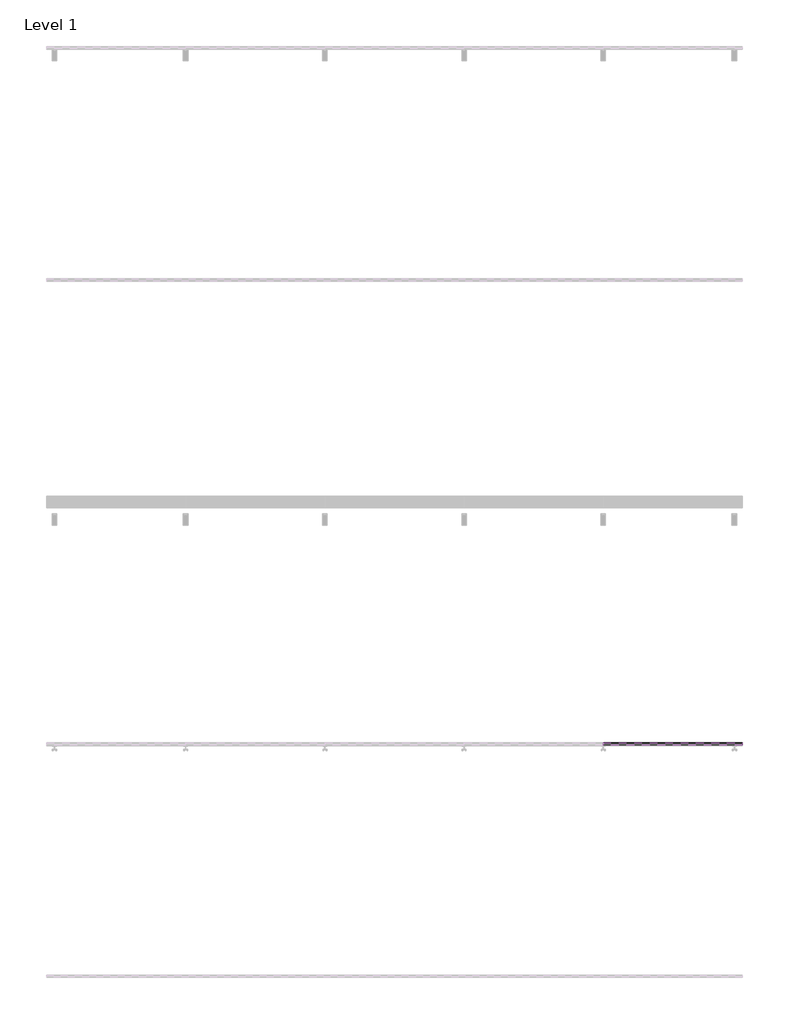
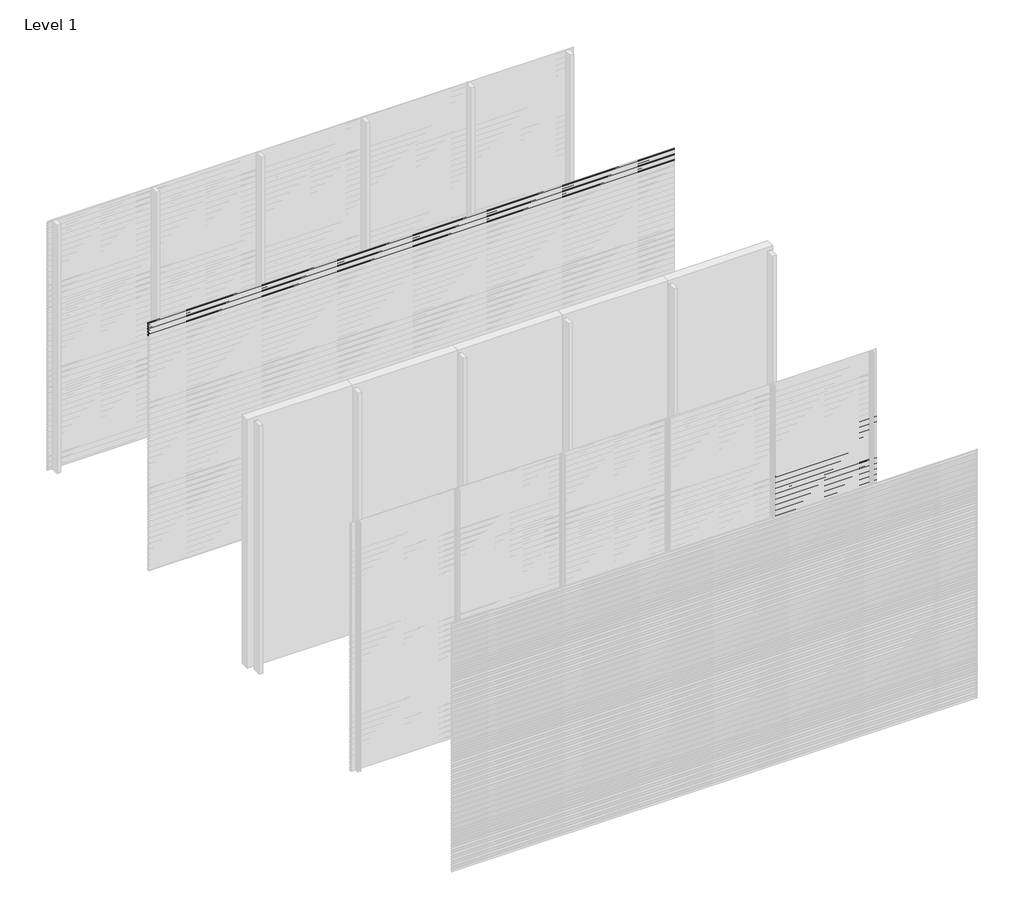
# One storey, part 25 of 77: 72 proxies.
"""IFC4 building model written with IfcOpenShell, lengths in millimetres."""

import ifcopenshell
import ifcopenshell.guid

model = None  # the IFC model being written
_history = None  # IfcOwnerHistory: only IFC2X3 demands one
_inside = {}  # id of a spatial element -> (the spatial element, [elements in it])
_under = {}  # id of a project, library or spatial element -> (it, [spatial elements below it])
_declared = {}  # id of a project -> (the project, [libraries it declares])
_typed = {}  # id of a type object -> (the type object, [elements of that type])
_made_of = {}  # id of a material, layer set ... -> (it, [elements and type objects made of it])


def new_model(schema):
    """Start an empty IFC model of exactly this schema.

    Asked for "IFC4X3", IfcOpenShell would pick the latest addendum, in which some entities
    have other attributes; the version numbers below select the first issue.
    IFC2X3 requires an IfcOwnerHistory on every rooted entity: one is made here for all.
    """
    global model, _history
    if schema == "IFC4X3":
        model = ifcopenshell.file(schema_version=(4, 3, 0, 0))
    else:
        model = ifcopenshell.file(schema=schema)
    _inside.clear()
    _under.clear()
    _declared.clear()
    _typed.clear()
    _made_of.clear()
    _history = None
    if model.schema == "IFC2X3":
        org = make("IfcOrganization", Name="unknown")
        user = make(
            "IfcPersonAndOrganization",
            ThePerson=make("IfcPerson", FamilyName="unknown"),
            TheOrganization=org,
        )
        app = make(
            "IfcApplication",
            ApplicationDeveloper=org,
            Version="unknown",
            ApplicationFullName="unknown",
            ApplicationIdentifier="unknown",
        )
        _history = make(
            "IfcOwnerHistory",
            OwningUser=user,
            OwningApplication=app,
            ChangeAction="ADDED",
            CreationDate=0,
        )
    return model


def make(cls, **values):
    """One entity of the class cls with the attributes given. An attribute that is None is left unset."""
    return model.create_entity(
        cls, **{name: value for name, value in values.items() if value is not None}
    )


def rooted(cls, **values):
    """An entity with a GlobalId (a new one), such as an element, a storey or a relation."""
    return make(cls, GlobalId=ifcopenshell.guid.new(), OwnerHistory=_history, **values)


def si_unit(unit_type, name, prefix=None):
    """IfcSIUnit, for example si_unit("LENGTHUNIT", "METRE", prefix="MILLI")."""
    return make("IfcSIUnit", UnitType=unit_type, Prefix=prefix, Name=name)


def assignment(units):
    """IfcUnitAssignment: the units of a project."""
    return None if units is None else make("IfcUnitAssignment", Units=units)


def point(xyz):
    """IfcCartesianPoint."""
    return None if xyz is None else make("IfcCartesianPoint", Coordinates=xyz)


def direction(xyz):
    """IfcDirection."""
    return None if xyz is None else make("IfcDirection", DirectionRatios=xyz)


def frame(location, z_axis=None, x_axis=None):
    """IfcAxis2Placement3D, a coordinate frame: its origin and axes. An axis left out is left unset."""
    return make(
        "IfcAxis2Placement3D",
        Location=point(location),
        Axis=direction(z_axis),
        RefDirection=direction(x_axis),
    )


def origin():
    """The frame at (0, 0, 0) with its axes left unset."""
    return frame((0.0, 0.0, 0.0))


def place(relative_to, where):
    """IfcLocalPlacement: puts the frame where relative to a parent placement (None: the world)."""
    return make(
        "IfcLocalPlacement", PlacementRelTo=relative_to, RelativePlacement=where
    )


def context(
    kind, dimensions, precision=None, world=None, true_north=None, identifier=None
):
    """IfcGeometricRepresentationContext, for example the 3D "Model" context."""
    return make(
        "IfcGeometricRepresentationContext",
        ContextIdentifier=identifier,
        ContextType=kind,
        CoordinateSpaceDimension=dimensions,
        Precision=precision,
        WorldCoordinateSystem=world,
        TrueNorth=true_north,
    )


def project(units=None, contexts=None):
    """IfcProject with its units and contexts."""
    return rooted(
        "IfcProject",
        Name="project",
        RepresentationContexts=contexts,
        UnitsInContext=assignment(units),
    )


def spatial(cls, under=None, at=None, **own):
    """A site, building, storey or space (cls), placed at a placement, below another one or the project."""
    s = rooted(cls, ObjectPlacement=at, **own)
    if under is not None:
        _under.setdefault(under.id(), (under, []))[1].append(s)
    return s


def polyline(points):
    """IfcPolyline through the points."""
    return make("IfcPolyline", Points=[point(p) for p in points])


def outline(outer, holes=None, kind="AREA"):
    """IfcArbitraryClosedProfileDef: a profile drawn as a closed curve; with holes, ...WithVoids."""
    if holes is None:
        return make("IfcArbitraryClosedProfileDef", ProfileType=kind, OuterCurve=outer)
    return make(
        "IfcArbitraryProfileDefWithVoids",
        ProfileType=kind,
        OuterCurve=outer,
        InnerCurves=holes,
    )


def extrude(swept, where, along, depth):
    """IfcExtrudedAreaSolid: the profile swept, set in the frame where, extruded along a direction by depth."""
    return make(
        "IfcExtrudedAreaSolid",
        SweptArea=swept,
        Position=where,
        ExtrudedDirection=direction(along),
        Depth=depth,
    )


def shape(context_of_items, identifier, shape_type, items):
    """IfcShapeRepresentation: the items that make up one representation, for example the "Body"."""
    return make(
        "IfcShapeRepresentation",
        ContextOfItems=context_of_items,
        RepresentationIdentifier=identifier,
        RepresentationType=shape_type,
        Items=items,
    )


def made_of(thing, what):
    """Note that an element or type object is made of a material, layer set ...; save() writes the relation."""
    if what is not None:
        _made_of.setdefault(what.id(), (what, []))[1].append(thing)
    return thing


def element(
    cls,
    number,
    at=None,
    inside=None,
    cuts=None,
    type_object=None,
    material=None,
    context=None,
    identifier="Body",
    shape_type=None,
    held_by="IfcProductDefinitionShape",
    body=None,
    shapes=None,
    **own,
):
    """One element of the class cls, such as IfcWall. Its Tag is "e" and its number.

    at: its placement. inside: the storey or other place that contains it. cuts: it is an
    opening in that element (IfcRelVoidsElement). A single representation is given by context,
    identifier, shape_type and body (its items); several are given by shapes. held_by: the class
    of the entity that holds the representations. save() writes the other relations.
    """
    e = rooted(cls, Tag="e%d" % number, ObjectPlacement=at, **own)
    if body is not None:
        shapes = [shape(context, identifier, shape_type, body)]
    if shapes is not None:
        e.Representation = make(held_by, Representations=shapes)
    if inside is not None:
        _inside.setdefault(inside.id(), (inside, []))[1].append(e)
    if cuts is not None:
        rooted(
            "IfcRelVoidsElement", RelatingBuildingElement=cuts, RelatedOpeningElement=e
        )
    if type_object is not None:
        _typed.setdefault(type_object.id(), (type_object, []))[1].append(e)
    return made_of(e, material)


def aggregate(whole, parts):
    """IfcRelAggregates: a whole, such as a stair, and the parts it consists of."""
    return rooted("IfcRelAggregates", RelatingObject=whole, RelatedObjects=parts)


def save(model, path):
    """Write the relations noted so far, then the file.

    IfcRelAggregates (storeys below a building ...), IfcRelContainedInSpatialStructure (elements
    in a storey), IfcRelDefinesByType, IfcRelAssociatesMaterial and IfcRelDeclares: one each for
    every whole, place, type object, material and project.
    """
    for whole, parts in _under.values():
        aggregate(whole, parts)
    for where, things in _inside.values():
        rooted(
            "IfcRelContainedInSpatialStructure",
            RelatedElements=things,
            RelatingStructure=where,
        )
    for kind, things in _typed.values():
        rooted("IfcRelDefinesByType", RelatedObjects=things, RelatingType=kind)
    for what, things in _made_of.values():
        rooted("IfcRelAssociatesMaterial", RelatedObjects=things, RelatingMaterial=what)
    for by, libraries in _declared.values():
        rooted("IfcRelDeclares", RelatingContext=by, RelatedDefinitions=libraries)
    model.write(path)


model = new_model("IFC4")

# Units and contexts
model_context = context("Model", 3, world=origin())
ifc_project = project(units=[si_unit("LENGTHUNIT", "METRE", prefix="MILLI")], contexts=[model_context])

# Site, building, storey
site = spatial("IfcSite", under=ifc_project)
building = spatial("IfcBuilding", under=site)
storey = spatial("IfcBuildingStorey", under=building, Name="Level 1", Elevation=0.0)

# Proxies
placement = place(None, origin())
element("IfcBuildingElementProxy", 1, Name="Wall Sweeps", at=placement, inside=storey, context=model_context, shape_type="SweptSolid", body=[
    extrude(outline(polyline([(-37978.6, 2972.5359887), (-37998.0, 2983.7366691), (-37998.0, 2997.0), (-37997.0, 2997.0), (-37997.0, 2984.3191057), (-37977.6, 2973.1185105), (-37977.6, 2959.5185105), (-37978.6, 2961.0953129), (-37978.6, 2966.9032062), (-37995.9773817, 2958.8), (-37996.4, 2959.7063078), (-37978.6, 2968.0065841), (-37978.6, 2972.5359887)])), frame((0.0, 0.0, 0.0), z_axis=(1.0, 0.0, 0.0), x_axis=(0.0, 1.0, 0.0)), (0.0, 0.0, 1.0), 6000.0),
])
element("IfcBuildingElementProxy", 2, Name="Wall Sweeps", at=placement, inside=storey, context=model_context, shape_type="SweptSolid", body=[
    extrude(outline(polyline([(-37978.6, 2939.2359887), (-37998.0, 2950.4366691), (-37998.0, 2963.7), (-37997.0, 2963.7), (-37997.0, 2951.0191057), (-37977.6, 2939.8185105), (-37977.6, 2926.2185105), (-37978.6, 2927.7953129), (-37978.6, 2933.6032062), (-37995.9773817, 2925.5), (-37996.4, 2926.4063078), (-37978.6, 2934.7065841), (-37978.6, 2939.2359887)])), frame((0.0, 0.0, 0.0), z_axis=(1.0, 0.0, 0.0), x_axis=(0.0, 1.0, 0.0)), (0.0, 0.0, 1.0), 6000.0),
])
element("IfcBuildingElementProxy", 3, Name="Wall Sweeps", at=placement, inside=storey, context=model_context, shape_type="SweptSolid", body=[
    extrude(outline(polyline([(-37978.6, 2905.9359887), (-37998.0, 2917.1366691), (-37998.0, 2930.4), (-37997.0, 2930.4), (-37997.0, 2917.7191057), (-37977.6, 2906.5185105), (-37977.6, 2892.9185105), (-37978.6, 2894.4953129), (-37978.6, 2900.3032062), (-37995.9773817, 2892.2), (-37996.4, 2893.1063078), (-37978.6, 2901.4065841), (-37978.6, 2905.9359887)])), frame((0.0, 0.0, 0.0), z_axis=(1.0, 0.0, 0.0), x_axis=(0.0, 1.0, 0.0)), (0.0, 0.0, 1.0), 6000.0),
])
element("IfcBuildingElementProxy", 4, Name="Wall Sweeps", at=placement, inside=storey, context=model_context, shape_type="SweptSolid", body=[
    extrude(outline(polyline([(-37978.6, 2872.6359887), (-37998.0, 2883.8366691), (-37998.0, 2897.1), (-37997.0, 2897.1), (-37997.0, 2884.4191057), (-37977.6, 2873.2185105), (-37977.6, 2859.6185105), (-37978.6, 2861.1953129), (-37978.6, 2867.0032062), (-37995.9773817, 2858.9), (-37996.4, 2859.8063078), (-37978.6, 2868.1065841), (-37978.6, 2872.6359887)])), frame((0.0, 0.0, 0.0), z_axis=(1.0, 0.0, 0.0), x_axis=(0.0, 1.0, 0.0)), (0.0, 0.0, 1.0), 6000.0),
])
element("IfcBuildingElementProxy", 5, Name="Wall Sweeps", at=placement, inside=storey, context=model_context, shape_type="SweptSolid", body=[
    extrude(outline(polyline([(-37978.6, 2839.3359887), (-37998.0, 2850.5366691), (-37998.0, 2863.8), (-37997.0, 2863.8), (-37997.0, 2851.1191057), (-37977.6, 2839.9185105), (-37977.6, 2826.3185105), (-37978.6, 2827.8953129), (-37978.6, 2833.7032062), (-37995.9773817, 2825.6), (-37996.4, 2826.5063078), (-37978.6, 2834.8065841), (-37978.6, 2839.3359887)])), frame((0.0, 0.0, 0.0), z_axis=(1.0, 0.0, 0.0), x_axis=(0.0, 1.0, 0.0)), (0.0, 0.0, 1.0), 6000.0),
])
element("IfcBuildingElementProxy", 6, Name="Wall Sweeps", at=placement, inside=storey, context=model_context, shape_type="SweptSolid", body=[
    extrude(outline(polyline([(-41978.6, 2206.6359887), (-41998.0, 2217.8366691), (-41998.0, 2231.1), (-41997.0, 2231.1), (-41997.0, 2218.4191057), (-41977.6, 2207.2185105), (-41977.6, 2193.6185105), (-41978.6, 2195.1953129), (-41978.6, 2201.0032062), (-41995.9773817, 2192.9), (-41996.4, 2193.8063078), (-41978.6, 2202.1065841), (-41978.6, 2206.6359887)])), frame((4800.0, 0.0, 0.0), z_axis=(1.0, 0.0, 0.0), x_axis=(0.0, 1.0, 0.0)), (0.0, 0.0, 1.0), 1200.0),
])
element("IfcBuildingElementProxy", 7, Name="Wall Sweeps", at=placement, inside=storey, context=model_context, shape_type="SweptSolid", body=[
    extrude(outline(polyline([(-41978.6, 2173.3359887), (-41998.0, 2184.5366691), (-41998.0, 2197.8), (-41997.0, 2197.8), (-41997.0, 2185.1191057), (-41977.6, 2173.9185105), (-41977.6, 2160.3185105), (-41978.6, 2161.8953129), (-41978.6, 2167.7032062), (-41995.9773817, 2159.6), (-41996.4, 2160.5063078), (-41978.6, 2168.8065841), (-41978.6, 2173.3359887)])), frame((4800.0, 0.0, 0.0), z_axis=(1.0, 0.0, 0.0), x_axis=(0.0, 1.0, 0.0)), (0.0, 0.0, 1.0), 1200.0),
])
element("IfcBuildingElementProxy", 8, Name="Wall Sweeps", at=placement, inside=storey, context=model_context, shape_type="SweptSolid", body=[
    extrude(outline(polyline([(-41978.6, 2140.0359887), (-41998.0, 2151.2366691), (-41998.0, 2164.5), (-41997.0, 2164.5), (-41997.0, 2151.8191057), (-41977.6, 2140.6185105), (-41977.6, 2127.0185105), (-41978.6, 2128.5953129), (-41978.6, 2134.4032062), (-41995.9773817, 2126.3), (-41996.4, 2127.2063078), (-41978.6, 2135.5065841), (-41978.6, 2140.0359887)])), frame((4800.0, 0.0, 0.0), z_axis=(1.0, 0.0, 0.0), x_axis=(0.0, 1.0, 0.0)), (0.0, 0.0, 1.0), 1200.0),
])
element("IfcBuildingElementProxy", 9, Name="Wall Sweeps", at=placement, inside=storey, context=model_context, shape_type="SweptSolid", body=[
    extrude(outline(polyline([(-41978.6, 2106.7359887), (-41998.0, 2117.9366691), (-41998.0, 2131.2), (-41997.0, 2131.2), (-41997.0, 2118.5191057), (-41977.6, 2107.3185105), (-41977.6, 2093.7185105), (-41978.6, 2095.2953129), (-41978.6, 2101.1032062), (-41995.9773817, 2093.0), (-41996.4, 2093.9063078), (-41978.6, 2102.2065841), (-41978.6, 2106.7359887)])), frame((4800.0, 0.0, 0.0), z_axis=(1.0, 0.0, 0.0), x_axis=(0.0, 1.0, 0.0)), (0.0, 0.0, 1.0), 1200.0),
])
element("IfcBuildingElementProxy", 10, Name="Wall Sweeps", at=placement, inside=storey, context=model_context, shape_type="SweptSolid", body=[
    extrude(outline(polyline([(-41978.6, 2073.4359887), (-41998.0, 2084.6366691), (-41998.0, 2097.9), (-41997.0, 2097.9), (-41997.0, 2085.2191057), (-41977.6, 2074.0185105), (-41977.6, 2060.4185105), (-41978.6, 2061.9953129), (-41978.6, 2067.8032062), (-41995.9773817, 2059.7), (-41996.4, 2060.6063078), (-41978.6, 2068.9065841), (-41978.6, 2073.4359887)])), frame((4800.0, 0.0, 0.0), z_axis=(1.0, 0.0, 0.0), x_axis=(0.0, 1.0, 0.0)), (0.0, 0.0, 1.0), 1200.0),
])
element("IfcBuildingElementProxy", 11, Name="Wall Sweeps", at=placement, inside=storey, context=model_context, shape_type="SweptSolid", body=[
    extrude(outline(polyline([(-41978.6, 2040.1359887), (-41998.0, 2051.3366691), (-41998.0, 2064.6), (-41997.0, 2064.6), (-41997.0, 2051.9191057), (-41977.6, 2040.7185105), (-41977.6, 2027.1185105), (-41978.6, 2028.6953129), (-41978.6, 2034.5032062), (-41995.9773817, 2026.4), (-41996.4, 2027.3063078), (-41978.6, 2035.6065841), (-41978.6, 2040.1359887)])), frame((4800.0, 0.0, 0.0), z_axis=(1.0, 0.0, 0.0), x_axis=(0.0, 1.0, 0.0)), (0.0, 0.0, 1.0), 1200.0),
])
element("IfcBuildingElementProxy", 12, Name="Wall Sweeps", at=placement, inside=storey, context=model_context, shape_type="SweptSolid", body=[
    extrude(outline(polyline([(-41978.6, 2006.8359887), (-41998.0, 2018.0366691), (-41998.0, 2031.3), (-41997.0, 2031.3), (-41997.0, 2018.6191057), (-41977.6, 2007.4185105), (-41977.6, 1993.8185105), (-41978.6, 1995.3953129), (-41978.6, 2001.2032062), (-41995.9773817, 1993.1), (-41996.4, 1994.0063078), (-41978.6, 2002.3065841), (-41978.6, 2006.8359887)])), frame((4800.0, 0.0, 0.0), z_axis=(1.0, 0.0, 0.0), x_axis=(0.0, 1.0, 0.0)), (0.0, 0.0, 1.0), 1200.0),
])
element("IfcBuildingElementProxy", 13, Name="Wall Sweeps", at=placement, inside=storey, context=model_context, shape_type="SweptSolid", body=[
    extrude(outline(polyline([(-41978.6, 1973.5359887), (-41998.0, 1984.7366691), (-41998.0, 1998.0), (-41997.0, 1998.0), (-41997.0, 1985.3191057), (-41977.6, 1974.1185105), (-41977.6, 1960.5185105), (-41978.6, 1962.0953129), (-41978.6, 1967.9032062), (-41995.9773817, 1959.8), (-41996.4, 1960.7063078), (-41978.6, 1969.0065841), (-41978.6, 1973.5359887)])), frame((4800.0, 0.0, 0.0), z_axis=(1.0, 0.0, 0.0), x_axis=(0.0, 1.0, 0.0)), (0.0, 0.0, 1.0), 1200.0),
])
element("IfcBuildingElementProxy", 14, Name="Wall Sweeps", at=placement, inside=storey, context=model_context, shape_type="SweptSolid", body=[
    extrude(outline(polyline([(-41978.6, 1940.2359887), (-41998.0, 1951.4366691), (-41998.0, 1964.7), (-41997.0, 1964.7), (-41997.0, 1952.0191057), (-41977.6, 1940.8185105), (-41977.6, 1927.2185105), (-41978.6, 1928.7953129), (-41978.6, 1934.6032062), (-41995.9773817, 1926.5), (-41996.4, 1927.4063078), (-41978.6, 1935.7065841), (-41978.6, 1940.2359887)])), frame((4800.0, 0.0, 0.0), z_axis=(1.0, 0.0, 0.0), x_axis=(0.0, 1.0, 0.0)), (0.0, 0.0, 1.0), 1200.0),
])
element("IfcBuildingElementProxy", 15, Name="Wall Sweeps", at=placement, inside=storey, context=model_context, shape_type="SweptSolid", body=[
    extrude(outline(polyline([(-41978.6, 1906.9359887), (-41998.0, 1918.1366691), (-41998.0, 1931.4), (-41997.0, 1931.4), (-41997.0, 1918.7191057), (-41977.6, 1907.5185105), (-41977.6, 1893.9185105), (-41978.6, 1895.4953129), (-41978.6, 1901.3032062), (-41995.9773817, 1893.2), (-41996.4, 1894.1063078), (-41978.6, 1902.4065841), (-41978.6, 1906.9359887)])), frame((4800.0, 0.0, 0.0), z_axis=(1.0, 0.0, 0.0), x_axis=(0.0, 1.0, 0.0)), (0.0, 0.0, 1.0), 1200.0),
])
element("IfcBuildingElementProxy", 16, Name="Wall Sweeps", at=placement, inside=storey, context=model_context, shape_type="SweptSolid", body=[
    extrude(outline(polyline([(-41978.6, 1873.6359887), (-41998.0, 1884.8366691), (-41998.0, 1898.1), (-41997.0, 1898.1), (-41997.0, 1885.4191057), (-41977.6, 1874.2185105), (-41977.6, 1860.6185105), (-41978.6, 1862.1953129), (-41978.6, 1868.0032062), (-41995.9773817, 1859.9), (-41996.4, 1860.8063078), (-41978.6, 1869.1065841), (-41978.6, 1873.6359887)])), frame((4800.0, 0.0, 0.0), z_axis=(1.0, 0.0, 0.0), x_axis=(0.0, 1.0, 0.0)), (0.0, 0.0, 1.0), 1200.0),
])
element("IfcBuildingElementProxy", 17, Name="Wall Sweeps", at=placement, inside=storey, context=model_context, shape_type="SweptSolid", body=[
    extrude(outline(polyline([(-41978.6, 1840.3359887), (-41998.0, 1851.5366691), (-41998.0, 1864.8), (-41997.0, 1864.8), (-41997.0, 1852.1191057), (-41977.6, 1840.9185105), (-41977.6, 1827.3185105), (-41978.6, 1828.8953129), (-41978.6, 1834.7032062), (-41995.9773817, 1826.6), (-41996.4, 1827.5063078), (-41978.6, 1835.8065841), (-41978.6, 1840.3359887)])), frame((4800.0, 0.0, 0.0), z_axis=(1.0, 0.0, 0.0), x_axis=(0.0, 1.0, 0.0)), (0.0, 0.0, 1.0), 1200.0),
])
element("IfcBuildingElementProxy", 18, Name="Wall Sweeps", at=placement, inside=storey, context=model_context, shape_type="SweptSolid", body=[
    extrude(outline(polyline([(-41978.6, 1807.0359887), (-41998.0, 1818.2366691), (-41998.0, 1831.5), (-41997.0, 1831.5), (-41997.0, 1818.8191057), (-41977.6, 1807.6185105), (-41977.6, 1794.0185105), (-41978.6, 1795.5953129), (-41978.6, 1801.4032062), (-41995.9773817, 1793.3), (-41996.4, 1794.2063078), (-41978.6, 1802.5065841), (-41978.6, 1807.0359887)])), frame((4800.0, 0.0, 0.0), z_axis=(1.0, 0.0, 0.0), x_axis=(0.0, 1.0, 0.0)), (0.0, 0.0, 1.0), 1200.0),
])
element("IfcBuildingElementProxy", 19, Name="Wall Sweeps", at=placement, inside=storey, context=model_context, shape_type="SweptSolid", body=[
    extrude(outline(polyline([(-41978.6, 1773.7359887), (-41998.0, 1784.9366691), (-41998.0, 1798.2), (-41997.0, 1798.2), (-41997.0, 1785.5191057), (-41977.6, 1774.3185105), (-41977.6, 1760.7185105), (-41978.6, 1762.2953129), (-41978.6, 1768.1032062), (-41995.9773817, 1760.0), (-41996.4, 1760.9063078), (-41978.6, 1769.2065841), (-41978.6, 1773.7359887)])), frame((4800.0, 0.0, 0.0), z_axis=(1.0, 0.0, 0.0), x_axis=(0.0, 1.0, 0.0)), (0.0, 0.0, 1.0), 1200.0),
])
element("IfcBuildingElementProxy", 20, Name="Wall Sweeps", at=placement, inside=storey, context=model_context, shape_type="SweptSolid", body=[
    extrude(outline(polyline([(-41978.6, 1740.4359887), (-41998.0, 1751.6366691), (-41998.0, 1764.9), (-41997.0, 1764.9), (-41997.0, 1752.2191057), (-41977.6, 1741.0185105), (-41977.6, 1727.4185105), (-41978.6, 1728.9953129), (-41978.6, 1734.8032062), (-41995.9773817, 1726.7), (-41996.4, 1727.6063078), (-41978.6, 1735.9065841), (-41978.6, 1740.4359887)])), frame((4800.0, 0.0, 0.0), z_axis=(1.0, 0.0, 0.0), x_axis=(0.0, 1.0, 0.0)), (0.0, 0.0, 1.0), 1200.0),
])
element("IfcBuildingElementProxy", 21, Name="Wall Sweeps", at=placement, inside=storey, context=model_context, shape_type="SweptSolid", body=[
    extrude(outline(polyline([(-41978.6, 1707.1359887), (-41998.0, 1718.3366691), (-41998.0, 1731.6), (-41997.0, 1731.6), (-41997.0, 1718.9191057), (-41977.6, 1707.7185105), (-41977.6, 1694.1185105), (-41978.6, 1695.6953129), (-41978.6, 1701.5032062), (-41995.9773817, 1693.4), (-41996.4, 1694.3063078), (-41978.6, 1702.6065841), (-41978.6, 1707.1359887)])), frame((4800.0, 0.0, 0.0), z_axis=(1.0, 0.0, 0.0), x_axis=(0.0, 1.0, 0.0)), (0.0, 0.0, 1.0), 1200.0),
])
element("IfcBuildingElementProxy", 22, Name="Wall Sweeps", at=placement, inside=storey, context=model_context, shape_type="SweptSolid", body=[
    extrude(outline(polyline([(-41978.6, 1673.8359887), (-41998.0, 1685.0366691), (-41998.0, 1698.3), (-41997.0, 1698.3), (-41997.0, 1685.6191057), (-41977.6, 1674.4185105), (-41977.6, 1660.8185105), (-41978.6, 1662.3953129), (-41978.6, 1668.2032062), (-41995.9773817, 1660.1), (-41996.4, 1661.0063078), (-41978.6, 1669.3065841), (-41978.6, 1673.8359887)])), frame((4800.0, 0.0, 0.0), z_axis=(1.0, 0.0, 0.0), x_axis=(0.0, 1.0, 0.0)), (0.0, 0.0, 1.0), 1200.0),
])
element("IfcBuildingElementProxy", 23, Name="Wall Sweeps", at=placement, inside=storey, context=model_context, shape_type="SweptSolid", body=[
    extrude(outline(polyline([(-41978.6, 1640.5359887), (-41998.0, 1651.7366691), (-41998.0, 1665.0), (-41997.0, 1665.0), (-41997.0, 1652.3191057), (-41977.6, 1641.1185105), (-41977.6, 1627.5185105), (-41978.6, 1629.0953129), (-41978.6, 1634.9032062), (-41995.9773817, 1626.8), (-41996.4, 1627.7063078), (-41978.6, 1636.0065841), (-41978.6, 1640.5359887)])), frame((4800.0, 0.0, 0.0), z_axis=(1.0, 0.0, 0.0), x_axis=(0.0, 1.0, 0.0)), (0.0, 0.0, 1.0), 1200.0),
])
element("IfcBuildingElementProxy", 24, Name="Wall Sweeps", at=placement, inside=storey, context=model_context, shape_type="SweptSolid", body=[
    extrude(outline(polyline([(-41978.6, 1607.2359887), (-41998.0, 1618.4366691), (-41998.0, 1631.7), (-41997.0, 1631.7), (-41997.0, 1619.0191057), (-41977.6, 1607.8185105), (-41977.6, 1594.2185105), (-41978.6, 1595.7953129), (-41978.6, 1601.6032062), (-41995.9773817, 1593.5), (-41996.4, 1594.4063078), (-41978.6, 1602.7065841), (-41978.6, 1607.2359887)])), frame((4800.0, 0.0, 0.0), z_axis=(1.0, 0.0, 0.0), x_axis=(0.0, 1.0, 0.0)), (0.0, 0.0, 1.0), 1200.0),
])
element("IfcBuildingElementProxy", 25, Name="Wall Sweeps", at=placement, inside=storey, context=model_context, shape_type="SweptSolid", body=[
    extrude(outline(polyline([(-41978.6, 1573.9359887), (-41998.0, 1585.1366691), (-41998.0, 1598.4), (-41997.0, 1598.4), (-41997.0, 1585.7191057), (-41977.6, 1574.5185105), (-41977.6, 1560.9185105), (-41978.6, 1562.4953129), (-41978.6, 1568.3032062), (-41995.9773817, 1560.2), (-41996.4, 1561.1063078), (-41978.6, 1569.4065841), (-41978.6, 1573.9359887)])), frame((4800.0, 0.0, 0.0), z_axis=(1.0, 0.0, 0.0), x_axis=(0.0, 1.0, 0.0)), (0.0, 0.0, 1.0), 1200.0),
])
element("IfcBuildingElementProxy", 26, Name="Wall Sweeps", at=placement, inside=storey, context=model_context, shape_type="SweptSolid", body=[
    extrude(outline(polyline([(-41978.6, 1540.6359887), (-41998.0, 1551.8366691), (-41998.0, 1565.1), (-41997.0, 1565.1), (-41997.0, 1552.4191057), (-41977.6, 1541.2185105), (-41977.6, 1527.6185105), (-41978.6, 1529.1953129), (-41978.6, 1535.0032062), (-41995.9773817, 1526.9), (-41996.4, 1527.8063078), (-41978.6, 1536.1065841), (-41978.6, 1540.6359887)])), frame((4800.0, 0.0, 0.0), z_axis=(1.0, 0.0, 0.0), x_axis=(0.0, 1.0, 0.0)), (0.0, 0.0, 1.0), 1200.0),
])
element("IfcBuildingElementProxy", 27, Name="Wall Sweeps", at=placement, inside=storey, context=model_context, shape_type="SweptSolid", body=[
    extrude(outline(polyline([(-41978.6, 1507.3359887), (-41998.0, 1518.5366691), (-41998.0, 1531.8), (-41997.0, 1531.8), (-41997.0, 1519.1191057), (-41977.6, 1507.9185105), (-41977.6, 1494.3185105), (-41978.6, 1495.8953129), (-41978.6, 1501.7032062), (-41995.9773817, 1493.6), (-41996.4, 1494.5063078), (-41978.6, 1502.8065841), (-41978.6, 1507.3359887)])), frame((4800.0, 0.0, 0.0), z_axis=(1.0, 0.0, 0.0), x_axis=(0.0, 1.0, 0.0)), (0.0, 0.0, 1.0), 1200.0),
])
element("IfcBuildingElementProxy", 28, Name="Wall Sweeps", at=placement, inside=storey, context=model_context, shape_type="SweptSolid", body=[
    extrude(outline(polyline([(-41978.6, 1474.0359887), (-41998.0, 1485.2366691), (-41998.0, 1498.5), (-41997.0, 1498.5), (-41997.0, 1485.8191057), (-41977.6, 1474.6185105), (-41977.6, 1461.0185105), (-41978.6, 1462.5953129), (-41978.6, 1468.4032062), (-41995.9773817, 1460.3), (-41996.4, 1461.2063078), (-41978.6, 1469.5065841), (-41978.6, 1474.0359887)])), frame((4800.0, 0.0, 0.0), z_axis=(1.0, 0.0, 0.0), x_axis=(0.0, 1.0, 0.0)), (0.0, 0.0, 1.0), 1200.0),
])
element("IfcBuildingElementProxy", 29, Name="Wall Sweeps", at=placement, inside=storey, context=model_context, shape_type="SweptSolid", body=[
    extrude(outline(polyline([(-41978.6, 1440.7359887), (-41998.0, 1451.9366691), (-41998.0, 1465.2), (-41997.0, 1465.2), (-41997.0, 1452.5191057), (-41977.6, 1441.3185105), (-41977.6, 1427.7185105), (-41978.6, 1429.2953129), (-41978.6, 1435.1032062), (-41995.9773817, 1427.0), (-41996.4, 1427.9063078), (-41978.6, 1436.2065841), (-41978.6, 1440.7359887)])), frame((4800.0, 0.0, 0.0), z_axis=(1.0, 0.0, 0.0), x_axis=(0.0, 1.0, 0.0)), (0.0, 0.0, 1.0), 1200.0),
])
element("IfcBuildingElementProxy", 30, Name="Wall Sweeps", at=placement, inside=storey, context=model_context, shape_type="SweptSolid", body=[
    extrude(outline(polyline([(-41978.6, 1407.4359887), (-41998.0, 1418.6366691), (-41998.0, 1431.9), (-41997.0, 1431.9), (-41997.0, 1419.2191057), (-41977.6, 1408.0185105), (-41977.6, 1394.4185105), (-41978.6, 1395.9953129), (-41978.6, 1401.8032062), (-41995.9773817, 1393.7), (-41996.4, 1394.6063078), (-41978.6, 1402.9065841), (-41978.6, 1407.4359887)])), frame((4800.0, 0.0, 0.0), z_axis=(1.0, 0.0, 0.0), x_axis=(0.0, 1.0, 0.0)), (0.0, 0.0, 1.0), 1200.0),
])
element("IfcBuildingElementProxy", 31, Name="Wall Sweeps", at=placement, inside=storey, context=model_context, shape_type="SweptSolid", body=[
    extrude(outline(polyline([(-41978.6, 1374.1359887), (-41998.0, 1385.3366691), (-41998.0, 1398.6), (-41997.0, 1398.6), (-41997.0, 1385.9191057), (-41977.6, 1374.7185105), (-41977.6, 1361.1185105), (-41978.6, 1362.6953129), (-41978.6, 1368.5032062), (-41995.9773817, 1360.4), (-41996.4, 1361.3063078), (-41978.6, 1369.6065841), (-41978.6, 1374.1359887)])), frame((4800.0, 0.0, 0.0), z_axis=(1.0, 0.0, 0.0), x_axis=(0.0, 1.0, 0.0)), (0.0, 0.0, 1.0), 1200.0),
])
element("IfcBuildingElementProxy", 32, Name="Wall Sweeps", at=placement, inside=storey, context=model_context, shape_type="SweptSolid", body=[
    extrude(outline(polyline([(-41978.6, 1340.8359887), (-41998.0, 1352.0366691), (-41998.0, 1365.3), (-41997.0, 1365.3), (-41997.0, 1352.6191057), (-41977.6, 1341.4185105), (-41977.6, 1327.8185105), (-41978.6, 1329.3953129), (-41978.6, 1335.2032062), (-41995.9773817, 1327.1), (-41996.4, 1328.0063078), (-41978.6, 1336.3065841), (-41978.6, 1340.8359887)])), frame((4800.0, 0.0, 0.0), z_axis=(1.0, 0.0, 0.0), x_axis=(0.0, 1.0, 0.0)), (0.0, 0.0, 1.0), 1200.0),
])
element("IfcBuildingElementProxy", 33, Name="Wall Sweeps", at=placement, inside=storey, context=model_context, shape_type="SweptSolid", body=[
    extrude(outline(polyline([(-41978.6, 1307.5359887), (-41998.0, 1318.7366691), (-41998.0, 1332.0), (-41997.0, 1332.0), (-41997.0, 1319.3191057), (-41977.6, 1308.1185105), (-41977.6, 1294.5185105), (-41978.6, 1296.0953129), (-41978.6, 1301.9032062), (-41995.9773817, 1293.8), (-41996.4, 1294.7063078), (-41978.6, 1303.0065841), (-41978.6, 1307.5359887)])), frame((4800.0, 0.0, 0.0), z_axis=(1.0, 0.0, 0.0), x_axis=(0.0, 1.0, 0.0)), (0.0, 0.0, 1.0), 1200.0),
])
element("IfcBuildingElementProxy", 34, Name="Wall Sweeps", at=placement, inside=storey, context=model_context, shape_type="SweptSolid", body=[
    extrude(outline(polyline([(-41978.6, 1274.2359887), (-41998.0, 1285.4366691), (-41998.0, 1298.7), (-41997.0, 1298.7), (-41997.0, 1286.0191057), (-41977.6, 1274.8185105), (-41977.6, 1261.2185105), (-41978.6, 1262.7953129), (-41978.6, 1268.6032062), (-41995.9773817, 1260.5), (-41996.4, 1261.4063078), (-41978.6, 1269.7065841), (-41978.6, 1274.2359887)])), frame((4800.0, 0.0, 0.0), z_axis=(1.0, 0.0, 0.0), x_axis=(0.0, 1.0, 0.0)), (0.0, 0.0, 1.0), 1200.0),
])
element("IfcBuildingElementProxy", 35, Name="Wall Sweeps", at=placement, inside=storey, context=model_context, shape_type="SweptSolid", body=[
    extrude(outline(polyline([(-41978.6, 1240.9359887), (-41998.0, 1252.1366691), (-41998.0, 1265.4), (-41997.0, 1265.4), (-41997.0, 1252.7191057), (-41977.6, 1241.5185105), (-41977.6, 1227.9185105), (-41978.6, 1229.4953129), (-41978.6, 1235.3032062), (-41995.9773817, 1227.2), (-41996.4, 1228.1063078), (-41978.6, 1236.4065841), (-41978.6, 1240.9359887)])), frame((4800.0, 0.0, 0.0), z_axis=(1.0, 0.0, 0.0), x_axis=(0.0, 1.0, 0.0)), (0.0, 0.0, 1.0), 1200.0),
])
element("IfcBuildingElementProxy", 36, Name="Wall Sweeps", at=placement, inside=storey, context=model_context, shape_type="SweptSolid", body=[
    extrude(outline(polyline([(-41978.6, 1207.6359887), (-41998.0, 1218.8366691), (-41998.0, 1232.1), (-41997.0, 1232.1), (-41997.0, 1219.4191057), (-41977.6, 1208.2185105), (-41977.6, 1194.6185105), (-41978.6, 1196.1953129), (-41978.6, 1202.0032062), (-41995.9773817, 1193.9), (-41996.4, 1194.8063078), (-41978.6, 1203.1065841), (-41978.6, 1207.6359887)])), frame((4800.0, 0.0, 0.0), z_axis=(1.0, 0.0, 0.0), x_axis=(0.0, 1.0, 0.0)), (0.0, 0.0, 1.0), 1200.0),
])
element("IfcBuildingElementProxy", 37, Name="Wall Sweeps", at=placement, inside=storey, context=model_context, shape_type="SweptSolid", body=[
    extrude(outline(polyline([(-41978.6, 1174.3359887), (-41998.0, 1185.5366691), (-41998.0, 1198.8), (-41997.0, 1198.8), (-41997.0, 1186.1191057), (-41977.6, 1174.9185105), (-41977.6, 1161.3185105), (-41978.6, 1162.8953129), (-41978.6, 1168.7032062), (-41995.9773817, 1160.6), (-41996.4, 1161.5063078), (-41978.6, 1169.8065841), (-41978.6, 1174.3359887)])), frame((4800.0, 0.0, 0.0), z_axis=(1.0, 0.0, 0.0), x_axis=(0.0, 1.0, 0.0)), (0.0, 0.0, 1.0), 1200.0),
])
element("IfcBuildingElementProxy", 38, Name="Wall Sweeps", at=placement, inside=storey, context=model_context, shape_type="SweptSolid", body=[
    extrude(outline(polyline([(-41978.6, 1141.0359887), (-41998.0, 1152.2366691), (-41998.0, 1165.5), (-41997.0, 1165.5), (-41997.0, 1152.8191057), (-41977.6, 1141.6185105), (-41977.6, 1128.0185105), (-41978.6, 1129.5953129), (-41978.6, 1135.4032062), (-41995.9773817, 1127.3), (-41996.4, 1128.2063078), (-41978.6, 1136.5065841), (-41978.6, 1141.0359887)])), frame((4800.0, 0.0, 0.0), z_axis=(1.0, 0.0, 0.0), x_axis=(0.0, 1.0, 0.0)), (0.0, 0.0, 1.0), 1200.0),
])
element("IfcBuildingElementProxy", 39, Name="Wall Sweeps", at=placement, inside=storey, context=model_context, shape_type="SweptSolid", body=[
    extrude(outline(polyline([(-41978.6, 1107.7359887), (-41998.0, 1118.9366691), (-41998.0, 1132.2), (-41997.0, 1132.2), (-41997.0, 1119.5191057), (-41977.6, 1108.3185105), (-41977.6, 1094.7185105), (-41978.6, 1096.2953129), (-41978.6, 1102.1032062), (-41995.9773817, 1094.0), (-41996.4, 1094.9063078), (-41978.6, 1103.2065841), (-41978.6, 1107.7359887)])), frame((4800.0, 0.0, 0.0), z_axis=(1.0, 0.0, 0.0), x_axis=(0.0, 1.0, 0.0)), (0.0, 0.0, 1.0), 1200.0),
])
element("IfcBuildingElementProxy", 40, Name="Wall Sweeps", at=placement, inside=storey, context=model_context, shape_type="SweptSolid", body=[
    extrude(outline(polyline([(-41978.6, 1074.4359887), (-41998.0, 1085.6366691), (-41998.0, 1098.9), (-41997.0, 1098.9), (-41997.0, 1086.2191057), (-41977.6, 1075.0185105), (-41977.6, 1061.4185105), (-41978.6, 1062.9953129), (-41978.6, 1068.8032062), (-41995.9773817, 1060.7), (-41996.4, 1061.6063078), (-41978.6, 1069.9065841), (-41978.6, 1074.4359887)])), frame((4800.0, 0.0, 0.0), z_axis=(1.0, 0.0, 0.0), x_axis=(0.0, 1.0, 0.0)), (0.0, 0.0, 1.0), 1200.0),
])
element("IfcBuildingElementProxy", 41, Name="Wall Sweeps", at=placement, inside=storey, context=model_context, shape_type="SweptSolid", body=[
    extrude(outline(polyline([(-41978.6, 1041.1359887), (-41998.0, 1052.3366691), (-41998.0, 1065.6), (-41997.0, 1065.6), (-41997.0, 1052.9191057), (-41977.6, 1041.7185105), (-41977.6, 1028.1185105), (-41978.6, 1029.6953129), (-41978.6, 1035.5032062), (-41995.9773817, 1027.4), (-41996.4, 1028.3063078), (-41978.6, 1036.6065841), (-41978.6, 1041.1359887)])), frame((4800.0, 0.0, 0.0), z_axis=(1.0, 0.0, 0.0), x_axis=(0.0, 1.0, 0.0)), (0.0, 0.0, 1.0), 1200.0),
])
element("IfcBuildingElementProxy", 42, Name="Wall Sweeps", at=placement, inside=storey, context=model_context, shape_type="SweptSolid", body=[
    extrude(outline(polyline([(-41978.6, 1007.8359887), (-41998.0, 1019.0366691), (-41998.0, 1032.3), (-41997.0, 1032.3), (-41997.0, 1019.6191057), (-41977.6, 1008.4185105), (-41977.6, 994.8185105), (-41978.6, 996.3953129), (-41978.6, 1002.2032062), (-41995.9773817, 994.1), (-41996.4, 995.0063078), (-41978.6, 1003.3065841), (-41978.6, 1007.8359887)])), frame((4800.0, 0.0, 0.0), z_axis=(1.0, 0.0, 0.0), x_axis=(0.0, 1.0, 0.0)), (0.0, 0.0, 1.0), 1200.0),
])
element("IfcBuildingElementProxy", 43, Name="Wall Sweeps", at=placement, inside=storey, context=model_context, shape_type="SweptSolid", body=[
    extrude(outline(polyline([(-41978.6, 974.5359887), (-41998.0, 985.7366691), (-41998.0, 999.0), (-41997.0, 999.0), (-41997.0, 986.3191057), (-41977.6, 975.1185105), (-41977.6, 961.5185105), (-41978.6, 963.0953129), (-41978.6, 968.9032062), (-41995.9773817, 960.8), (-41996.4, 961.7063078), (-41978.6, 970.0065841), (-41978.6, 974.5359887)])), frame((4800.0, 0.0, 0.0), z_axis=(1.0, 0.0, 0.0), x_axis=(0.0, 1.0, 0.0)), (0.0, 0.0, 1.0), 1200.0),
])
element("IfcBuildingElementProxy", 44, Name="Wall Sweeps", at=placement, inside=storey, context=model_context, shape_type="SweptSolid", body=[
    extrude(outline(polyline([(-41978.6, 941.2359887), (-41998.0, 952.4366691), (-41998.0, 965.7), (-41997.0, 965.7), (-41997.0, 953.0191057), (-41977.6, 941.8185105), (-41977.6, 928.2185105), (-41978.6, 929.7953129), (-41978.6, 935.6032062), (-41995.9773817, 927.5), (-41996.4, 928.4063078), (-41978.6, 936.7065841), (-41978.6, 941.2359887)])), frame((4800.0, 0.0, 0.0), z_axis=(1.0, 0.0, 0.0), x_axis=(0.0, 1.0, 0.0)), (0.0, 0.0, 1.0), 1200.0),
])
element("IfcBuildingElementProxy", 45, Name="Wall Sweeps", at=placement, inside=storey, context=model_context, shape_type="SweptSolid", body=[
    extrude(outline(polyline([(-41978.6, 907.9359887), (-41998.0, 919.1366691), (-41998.0, 932.4), (-41997.0, 932.4), (-41997.0, 919.7191057), (-41977.6, 908.5185105), (-41977.6, 894.9185105), (-41978.6, 896.4953129), (-41978.6, 902.3032062), (-41995.9773817, 894.2), (-41996.4, 895.1063078), (-41978.6, 903.4065841), (-41978.6, 907.9359887)])), frame((4800.0, 0.0, 0.0), z_axis=(1.0, 0.0, 0.0), x_axis=(0.0, 1.0, 0.0)), (0.0, 0.0, 1.0), 1200.0),
])
element("IfcBuildingElementProxy", 46, Name="Wall Sweeps", at=placement, inside=storey, context=model_context, shape_type="SweptSolid", body=[
    extrude(outline(polyline([(-41978.6, 874.6359887), (-41998.0, 885.8366691), (-41998.0, 899.1), (-41997.0, 899.1), (-41997.0, 886.4191057), (-41977.6, 875.2185105), (-41977.6, 861.6185105), (-41978.6, 863.1953129), (-41978.6, 869.0032062), (-41995.9773817, 860.9), (-41996.4, 861.8063078), (-41978.6, 870.1065841), (-41978.6, 874.6359887)])), frame((4800.0, 0.0, 0.0), z_axis=(1.0, 0.0, 0.0), x_axis=(0.0, 1.0, 0.0)), (0.0, 0.0, 1.0), 1200.0),
])
element("IfcBuildingElementProxy", 47, Name="Wall Sweeps", at=placement, inside=storey, context=model_context, shape_type="SweptSolid", body=[
    extrude(outline(polyline([(-41978.6, 841.3359887), (-41998.0, 852.5366691), (-41998.0, 865.8), (-41997.0, 865.8), (-41997.0, 853.1191057), (-41977.6, 841.9185105), (-41977.6, 828.3185105), (-41978.6, 829.8953129), (-41978.6, 835.7032062), (-41995.9773817, 827.6), (-41996.4, 828.5063078), (-41978.6, 836.8065841), (-41978.6, 841.3359887)])), frame((4800.0, 0.0, 0.0), z_axis=(1.0, 0.0, 0.0), x_axis=(0.0, 1.0, 0.0)), (0.0, 0.0, 1.0), 1200.0),
])
element("IfcBuildingElementProxy", 48, Name="Wall Sweeps", at=placement, inside=storey, context=model_context, shape_type="SweptSolid", body=[
    extrude(outline(polyline([(-41978.6, 808.0359887), (-41998.0, 819.2366691), (-41998.0, 832.5), (-41997.0, 832.5), (-41997.0, 819.8191057), (-41977.6, 808.6185105), (-41977.6, 795.0185105), (-41978.6, 796.5953129), (-41978.6, 802.4032062), (-41995.9773817, 794.3), (-41996.4, 795.2063078), (-41978.6, 803.5065841), (-41978.6, 808.0359887)])), frame((4800.0, 0.0, 0.0), z_axis=(1.0, 0.0, 0.0), x_axis=(0.0, 1.0, 0.0)), (0.0, 0.0, 1.0), 1200.0),
])
element("IfcBuildingElementProxy", 49, Name="Wall Sweeps", at=placement, inside=storey, context=model_context, shape_type="SweptSolid", body=[
    extrude(outline(polyline([(-41978.6, 774.7359887), (-41998.0, 785.9366691), (-41998.0, 799.2), (-41997.0, 799.2), (-41997.0, 786.5191057), (-41977.6, 775.3185105), (-41977.6, 761.7185105), (-41978.6, 763.2953129), (-41978.6, 769.1032062), (-41995.9773817, 761.0), (-41996.4, 761.9063078), (-41978.6, 770.2065841), (-41978.6, 774.7359887)])), frame((4800.0, 0.0, 0.0), z_axis=(1.0, 0.0, 0.0), x_axis=(0.0, 1.0, 0.0)), (0.0, 0.0, 1.0), 1200.0),
])
element("IfcBuildingElementProxy", 50, Name="Wall Sweeps", at=placement, inside=storey, context=model_context, shape_type="SweptSolid", body=[
    extrude(outline(polyline([(-41978.6, 741.4359887), (-41998.0, 752.6366691), (-41998.0, 765.9), (-41997.0, 765.9), (-41997.0, 753.2191057), (-41977.6, 742.0185105), (-41977.6, 728.4185105), (-41978.6, 729.9953129), (-41978.6, 735.8032062), (-41995.9773817, 727.7), (-41996.4, 728.6063078), (-41978.6, 736.9065841), (-41978.6, 741.4359887)])), frame((4800.0, 0.0, 0.0), z_axis=(1.0, 0.0, 0.0), x_axis=(0.0, 1.0, 0.0)), (0.0, 0.0, 1.0), 1200.0),
])
element("IfcBuildingElementProxy", 51, Name="Wall Sweeps", at=placement, inside=storey, context=model_context, shape_type="SweptSolid", body=[
    extrude(outline(polyline([(-41978.6, 708.1359887), (-41998.0, 719.3366691), (-41998.0, 732.6), (-41997.0, 732.6), (-41997.0, 719.9191057), (-41977.6, 708.7185105), (-41977.6, 695.1185105), (-41978.6, 696.6953129), (-41978.6, 702.5032062), (-41995.9773817, 694.4), (-41996.4, 695.3063078), (-41978.6, 703.6065841), (-41978.6, 708.1359887)])), frame((4800.0, 0.0, 0.0), z_axis=(1.0, 0.0, 0.0), x_axis=(0.0, 1.0, 0.0)), (0.0, 0.0, 1.0), 1200.0),
])
element("IfcBuildingElementProxy", 52, Name="Wall Sweeps", at=placement, inside=storey, context=model_context, shape_type="SweptSolid", body=[
    extrude(outline(polyline([(-41978.6, 674.8359887), (-41998.0, 686.0366691), (-41998.0, 699.3), (-41997.0, 699.3), (-41997.0, 686.6191057), (-41977.6, 675.4185105), (-41977.6, 661.8185105), (-41978.6, 663.3953129), (-41978.6, 669.2032062), (-41995.9773817, 661.1), (-41996.4, 662.0063078), (-41978.6, 670.3065841), (-41978.6, 674.8359887)])), frame((4800.0, 0.0, 0.0), z_axis=(1.0, 0.0, 0.0), x_axis=(0.0, 1.0, 0.0)), (0.0, 0.0, 1.0), 1200.0),
])
element("IfcBuildingElementProxy", 53, Name="Wall Sweeps", at=placement, inside=storey, context=model_context, shape_type="SweptSolid", body=[
    extrude(outline(polyline([(-41978.6, 641.5359887), (-41998.0, 652.7366691), (-41998.0, 666.0), (-41997.0, 666.0), (-41997.0, 653.3191057), (-41977.6, 642.1185105), (-41977.6, 628.5185105), (-41978.6, 630.0953129), (-41978.6, 635.9032062), (-41995.9773817, 627.8), (-41996.4, 628.7063078), (-41978.6, 637.0065841), (-41978.6, 641.5359887)])), frame((4800.0, 0.0, 0.0), z_axis=(1.0, 0.0, 0.0), x_axis=(0.0, 1.0, 0.0)), (0.0, 0.0, 1.0), 1200.0),
])
element("IfcBuildingElementProxy", 54, Name="Wall Sweeps", at=placement, inside=storey, context=model_context, shape_type="SweptSolid", body=[
    extrude(outline(polyline([(-41978.6, 608.2359887), (-41998.0, 619.4366691), (-41998.0, 632.7), (-41997.0, 632.7), (-41997.0, 620.0191057), (-41977.6, 608.8185105), (-41977.6, 595.2185105), (-41978.6, 596.7953129), (-41978.6, 602.6032062), (-41995.9773817, 594.5), (-41996.4, 595.4063078), (-41978.6, 603.7065841), (-41978.6, 608.2359887)])), frame((4800.0, 0.0, 0.0), z_axis=(1.0, 0.0, 0.0), x_axis=(0.0, 1.0, 0.0)), (0.0, 0.0, 1.0), 1200.0),
])
element("IfcBuildingElementProxy", 55, Name="Wall Sweeps", at=placement, inside=storey, context=model_context, shape_type="SweptSolid", body=[
    extrude(outline(polyline([(-41978.6, 574.9359887), (-41998.0, 586.1366691), (-41998.0, 599.4), (-41997.0, 599.4), (-41997.0, 586.7191057), (-41977.6, 575.5185105), (-41977.6, 561.9185105), (-41978.6, 563.4953129), (-41978.6, 569.3032062), (-41995.9773817, 561.2), (-41996.4, 562.1063078), (-41978.6, 570.4065841), (-41978.6, 574.9359887)])), frame((4800.0, 0.0, 0.0), z_axis=(1.0, 0.0, 0.0), x_axis=(0.0, 1.0, 0.0)), (0.0, 0.0, 1.0), 1200.0),
])
element("IfcBuildingElementProxy", 56, Name="Wall Sweeps", at=placement, inside=storey, context=model_context, shape_type="SweptSolid", body=[
    extrude(outline(polyline([(-41978.6, 541.6359887), (-41998.0, 552.8366691), (-41998.0, 566.1), (-41997.0, 566.1), (-41997.0, 553.4191057), (-41977.6, 542.2185105), (-41977.6, 528.6185105), (-41978.6, 530.1953129), (-41978.6, 536.0032062), (-41995.9773817, 527.9), (-41996.4, 528.8063078), (-41978.6, 537.1065841), (-41978.6, 541.6359887)])), frame((4800.0, 0.0, 0.0), z_axis=(1.0, 0.0, 0.0), x_axis=(0.0, 1.0, 0.0)), (0.0, 0.0, 1.0), 1200.0),
])
element("IfcBuildingElementProxy", 57, Name="Wall Sweeps", at=placement, inside=storey, context=model_context, shape_type="SweptSolid", body=[
    extrude(outline(polyline([(-41978.6, 508.3359887), (-41998.0, 519.5366691), (-41998.0, 532.8), (-41997.0, 532.8), (-41997.0, 520.1191057), (-41977.6, 508.9185105), (-41977.6, 495.3185105), (-41978.6, 496.8953129), (-41978.6, 502.7032062), (-41995.9773817, 494.6), (-41996.4, 495.5063078), (-41978.6, 503.8065841), (-41978.6, 508.3359887)])), frame((4800.0, 0.0, 0.0), z_axis=(1.0, 0.0, 0.0), x_axis=(0.0, 1.0, 0.0)), (0.0, 0.0, 1.0), 1200.0),
])
element("IfcBuildingElementProxy", 58, Name="Wall Sweeps", at=placement, inside=storey, context=model_context, shape_type="SweptSolid", body=[
    extrude(outline(polyline([(-41978.6, 475.0359887), (-41998.0, 486.2366691), (-41998.0, 499.5), (-41997.0, 499.5), (-41997.0, 486.8191057), (-41977.6, 475.6185105), (-41977.6, 462.0185105), (-41978.6, 463.5953129), (-41978.6, 469.4032062), (-41995.9773817, 461.3), (-41996.4, 462.2063078), (-41978.6, 470.5065841), (-41978.6, 475.0359887)])), frame((4800.0, 0.0, 0.0), z_axis=(1.0, 0.0, 0.0), x_axis=(0.0, 1.0, 0.0)), (0.0, 0.0, 1.0), 1200.0),
])
element("IfcBuildingElementProxy", 59, Name="Wall Sweeps", at=placement, inside=storey, context=model_context, shape_type="SweptSolid", body=[
    extrude(outline(polyline([(-41978.6, 441.7359887), (-41998.0, 452.9366691), (-41998.0, 466.2), (-41997.0, 466.2), (-41997.0, 453.5191057), (-41977.6, 442.3185105), (-41977.6, 428.7185105), (-41978.6, 430.2953129), (-41978.6, 436.1032062), (-41995.9773817, 428.0), (-41996.4, 428.9063078), (-41978.6, 437.2065841), (-41978.6, 441.7359887)])), frame((4800.0, 0.0, 0.0), z_axis=(1.0, 0.0, 0.0), x_axis=(0.0, 1.0, 0.0)), (0.0, 0.0, 1.0), 1200.0),
])
element("IfcBuildingElementProxy", 60, Name="Wall Sweeps", at=placement, inside=storey, context=model_context, shape_type="SweptSolid", body=[
    extrude(outline(polyline([(-41978.6, 408.4359887), (-41998.0, 419.6366691), (-41998.0, 432.9), (-41997.0, 432.9), (-41997.0, 420.2191057), (-41977.6, 409.0185105), (-41977.6, 395.4185105), (-41978.6, 396.9953129), (-41978.6, 402.8032062), (-41995.9773817, 394.7), (-41996.4, 395.6063078), (-41978.6, 403.9065841), (-41978.6, 408.4359887)])), frame((4800.0, 0.0, 0.0), z_axis=(1.0, 0.0, 0.0), x_axis=(0.0, 1.0, 0.0)), (0.0, 0.0, 1.0), 1200.0),
])
element("IfcBuildingElementProxy", 61, Name="Wall Sweeps", at=placement, inside=storey, context=model_context, shape_type="SweptSolid", body=[
    extrude(outline(polyline([(-41978.6, 375.1359887), (-41998.0, 386.3366691), (-41998.0, 399.6), (-41997.0, 399.6), (-41997.0, 386.9191057), (-41977.6, 375.7185105), (-41977.6, 362.1185105), (-41978.6, 363.6953129), (-41978.6, 369.5032062), (-41995.9773817, 361.4), (-41996.4, 362.3063078), (-41978.6, 370.6065841), (-41978.6, 375.1359887)])), frame((4800.0, 0.0, 0.0), z_axis=(1.0, 0.0, 0.0), x_axis=(0.0, 1.0, 0.0)), (0.0, 0.0, 1.0), 1200.0),
])
element("IfcBuildingElementProxy", 62, Name="Wall Sweeps", at=placement, inside=storey, context=model_context, shape_type="SweptSolid", body=[
    extrude(outline(polyline([(-41978.6, 341.8359887), (-41998.0, 353.0366691), (-41998.0, 366.3), (-41997.0, 366.3), (-41997.0, 353.6191057), (-41977.6, 342.4185105), (-41977.6, 328.8185105), (-41978.6, 330.3953129), (-41978.6, 336.2032062), (-41995.9773817, 328.1), (-41996.4, 329.0063078), (-41978.6, 337.3065841), (-41978.6, 341.8359887)])), frame((4800.0, 0.0, 0.0), z_axis=(1.0, 0.0, 0.0), x_axis=(0.0, 1.0, 0.0)), (0.0, 0.0, 1.0), 1200.0),
])
element("IfcBuildingElementProxy", 63, Name="Wall Sweeps", at=placement, inside=storey, context=model_context, shape_type="SweptSolid", body=[
    extrude(outline(polyline([(-41978.6, 308.5359887), (-41998.0, 319.7366691), (-41998.0, 333.0), (-41997.0, 333.0), (-41997.0, 320.3191057), (-41977.6, 309.1185105), (-41977.6, 295.5185105), (-41978.6, 297.0953129), (-41978.6, 302.9032062), (-41995.9773817, 294.8), (-41996.4, 295.7063078), (-41978.6, 304.0065841), (-41978.6, 308.5359887)])), frame((4800.0, 0.0, 0.0), z_axis=(1.0, 0.0, 0.0), x_axis=(0.0, 1.0, 0.0)), (0.0, 0.0, 1.0), 1200.0),
])
element("IfcBuildingElementProxy", 64, Name="Wall Sweeps", at=placement, inside=storey, context=model_context, shape_type="SweptSolid", body=[
    extrude(outline(polyline([(-41978.6, 275.2359887), (-41998.0, 286.4366691), (-41998.0, 299.7), (-41997.0, 299.7), (-41997.0, 287.0191057), (-41977.6, 275.8185105), (-41977.6, 262.2185105), (-41978.6, 263.7953129), (-41978.6, 269.6032062), (-41995.9773817, 261.5), (-41996.4, 262.4063078), (-41978.6, 270.7065841), (-41978.6, 275.2359887)])), frame((4800.0, 0.0, 0.0), z_axis=(1.0, 0.0, 0.0), x_axis=(0.0, 1.0, 0.0)), (0.0, 0.0, 1.0), 1200.0),
])
element("IfcBuildingElementProxy", 65, Name="Wall Sweeps", at=placement, inside=storey, context=model_context, shape_type="SweptSolid", body=[
    extrude(outline(polyline([(-41978.6, 241.9359887), (-41998.0, 253.1366691), (-41998.0, 266.4), (-41997.0, 266.4), (-41997.0, 253.7191057), (-41977.6, 242.5185105), (-41977.6, 228.9185105), (-41978.6, 230.4953129), (-41978.6, 236.3032062), (-41995.9773817, 228.2), (-41996.4, 229.1063078), (-41978.6, 237.4065841), (-41978.6, 241.9359887)])), frame((4800.0, 0.0, 0.0), z_axis=(1.0, 0.0, 0.0), x_axis=(0.0, 1.0, 0.0)), (0.0, 0.0, 1.0), 1200.0),
])
element("IfcBuildingElementProxy", 66, Name="Wall Sweeps", at=placement, inside=storey, context=model_context, shape_type="SweptSolid", body=[
    extrude(outline(polyline([(-41978.6, 208.6359887), (-41998.0, 219.8366691), (-41998.0, 233.1), (-41997.0, 233.1), (-41997.0, 220.4191057), (-41977.6, 209.2185105), (-41977.6, 195.6185105), (-41978.6, 197.1953129), (-41978.6, 203.0032062), (-41995.9773817, 194.9), (-41996.4, 195.8063078), (-41978.6, 204.1065841), (-41978.6, 208.6359887)])), frame((4800.0, 0.0, 0.0), z_axis=(1.0, 0.0, 0.0), x_axis=(0.0, 1.0, 0.0)), (0.0, 0.0, 1.0), 1200.0),
])
element("IfcBuildingElementProxy", 67, Name="Wall Sweeps", at=placement, inside=storey, context=model_context, shape_type="SweptSolid", body=[
    extrude(outline(polyline([(-41978.6, 175.3359887), (-41998.0, 186.5366691), (-41998.0, 199.8), (-41997.0, 199.8), (-41997.0, 187.1191057), (-41977.6, 175.9185105), (-41977.6, 162.3185105), (-41978.6, 163.8953129), (-41978.6, 169.7032062), (-41995.9773817, 161.6), (-41996.4, 162.5063078), (-41978.6, 170.8065841), (-41978.6, 175.3359887)])), frame((4800.0, 0.0, 0.0), z_axis=(1.0, 0.0, 0.0), x_axis=(0.0, 1.0, 0.0)), (0.0, 0.0, 1.0), 1200.0),
])
element("IfcBuildingElementProxy", 68, Name="Wall Sweeps", at=placement, inside=storey, context=model_context, shape_type="SweptSolid", body=[
    extrude(outline(polyline([(-41978.6, 142.0359887), (-41998.0, 153.2366691), (-41998.0, 166.5), (-41997.0, 166.5), (-41997.0, 153.8191057), (-41977.6, 142.6185105), (-41977.6, 129.0185105), (-41978.6, 130.5953129), (-41978.6, 136.4032062), (-41995.9773817, 128.3), (-41996.4, 129.2063078), (-41978.6, 137.5065841), (-41978.6, 142.0359887)])), frame((4800.0, 0.0, 0.0), z_axis=(1.0, 0.0, 0.0), x_axis=(0.0, 1.0, 0.0)), (0.0, 0.0, 1.0), 1200.0),
])
element("IfcBuildingElementProxy", 69, Name="Wall Sweeps", at=placement, inside=storey, context=model_context, shape_type="SweptSolid", body=[
    extrude(outline(polyline([(-41978.6, 108.7359887), (-41998.0, 119.9366691), (-41998.0, 133.2), (-41997.0, 133.2), (-41997.0, 120.5191057), (-41977.6, 109.3185105), (-41977.6, 95.7185105), (-41978.6, 97.2953129), (-41978.6, 103.1032062), (-41995.9773817, 95.0), (-41996.4, 95.9063078), (-41978.6, 104.2065841), (-41978.6, 108.7359887)])), frame((4800.0, 0.0, 0.0), z_axis=(1.0, 0.0, 0.0), x_axis=(0.0, 1.0, 0.0)), (0.0, 0.0, 1.0), 1200.0),
])
element("IfcBuildingElementProxy", 70, Name="Wall Sweeps", at=placement, inside=storey, context=model_context, shape_type="SweptSolid", body=[
    extrude(outline(polyline([(-41978.6, 75.4359887), (-41998.0, 86.6366691), (-41998.0, 99.9), (-41997.0, 99.9), (-41997.0, 87.2191057), (-41977.6, 76.0185105), (-41977.6, 62.4185105), (-41978.6, 63.9953129), (-41978.6, 69.8032062), (-41995.9773817, 61.7), (-41996.4, 62.6063078), (-41978.6, 70.9065841), (-41978.6, 75.4359887)])), frame((4800.0, 0.0, 0.0), z_axis=(1.0, 0.0, 0.0), x_axis=(0.0, 1.0, 0.0)), (0.0, 0.0, 1.0), 1200.0),
])
element("IfcBuildingElementProxy", 71, Name="Wall Sweeps", at=placement, inside=storey, context=model_context, shape_type="SweptSolid", body=[
    extrude(outline(polyline([(-41978.6, 42.1359887), (-41998.0, 53.3366691), (-41998.0, 66.6), (-41997.0, 66.6), (-41997.0, 53.9191057), (-41977.6, 42.7185105), (-41977.6, 29.1185105), (-41978.6, 30.6953129), (-41978.6, 36.5032062), (-41995.9773817, 28.4), (-41996.4, 29.3063078), (-41978.6, 37.6065841), (-41978.6, 42.1359887)])), frame((4800.0, 0.0, 0.0), z_axis=(1.0, 0.0, 0.0), x_axis=(0.0, 1.0, 0.0)), (0.0, 0.0, 1.0), 1200.0),
])
element("IfcBuildingElementProxy", 72, Name="Wall Sweeps", at=placement, inside=storey, context=model_context, shape_type="SweptSolid", body=[
    extrude(outline(polyline([(-41978.6, 8.8359887), (-41998.0, 20.0366691), (-41998.0, 33.3), (-41997.0, 33.3), (-41997.0, 20.6191057), (-41977.6, 9.4185105), (-41977.6, -4.1814895), (-41978.6, -2.6046871), (-41978.6, 3.2032062), (-41995.9773817, -4.9), (-41996.4, -3.9936922), (-41978.6, 4.3065841), (-41978.6, 8.8359887)])), frame((4800.0, 0.0, 0.0), z_axis=(1.0, 0.0, 0.0), x_axis=(0.0, 1.0, 0.0)), (0.0, 0.0, 1.0), 1200.0),
])

save(model, "model.ifc")
